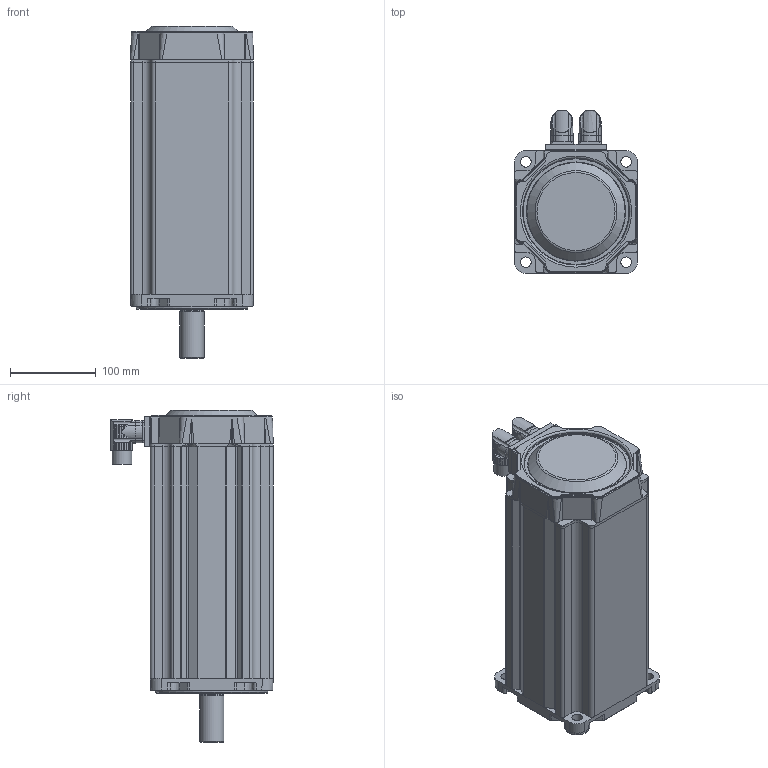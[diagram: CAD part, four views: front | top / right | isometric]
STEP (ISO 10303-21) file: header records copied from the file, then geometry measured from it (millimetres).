
FILE_DESCRIPTION((''),'2;1');
FILE_NAME('C:\CAD_work\Dummy_Modeling_Project_02-12-05\3D MODELS\MPP1426XXX_NPSB.stp','2005-12-20T17:32:28',('jevans'),(''),'Autodesk Inventor 10','Autodesk Inventor 10','');
FILE_SCHEMA(('AUTOMOTIVE_DESIGN { 1 0 10303 214 1 1 1 1 }'));
Length unit declared in the file: inch
Products named in the file (1): MPP142_MOTOR
Bounding box: 142.75 x 188.8 x 386.08 mm (x, y, z)
Volume: 5719508.7 mm3; surface area: 291281 mm2
Topology: 3 solids, 3 shells, 905 faces, 2284 edges, 1422 vertices
Faces by surface type: bspline 336, cylinder 287, plane 224, cone 35, torus 21, sphere 2
Full cylindrical faces by diameter (mm): 1.143 x17, 2.032 x6, 2.794 x2, 19.05 x1, 19.685 x1, 22.86 x1, 27.645 x1, 28.001 x1, 29.921 x1, 29.997 x1, 36.83 x1, 55.88 x1, 66.04 x1, 71.526 x1, 72.009 x1, 72.034 x2, 76.352 x1, 80.95 x1, 124.46 x1, 129.997 x1
Entity records: 37238 total; most frequent: CARTESIAN_POINT 17774, ORIENTED_EDGE 4334, DIRECTION 3475, EDGE_CURVE 2167, VERTEX_POINT 1398, AXIS2_PLACEMENT_3D 1344, EDGE_LOOP 1053, FACE_OUTER_BOUND 905
